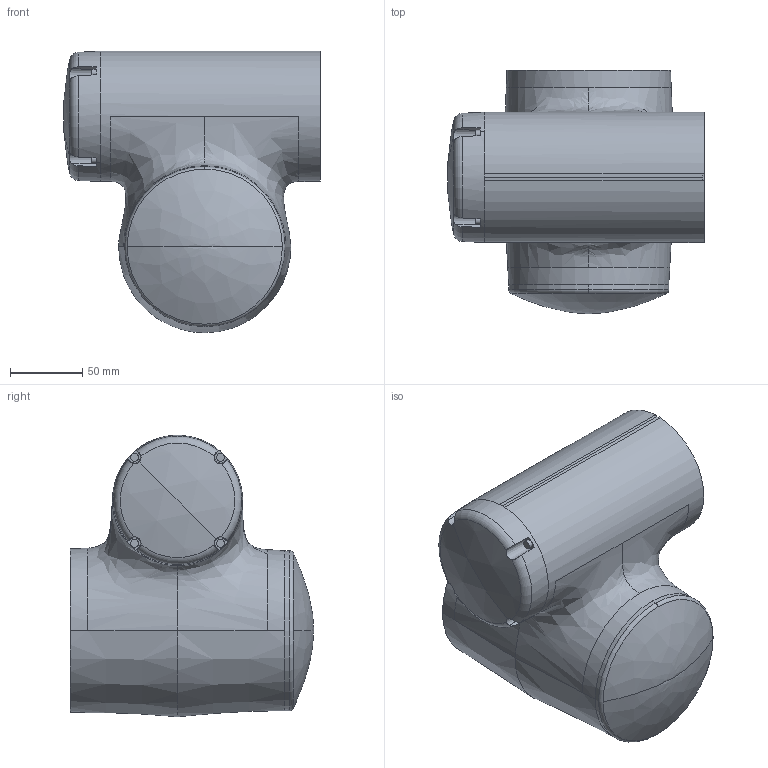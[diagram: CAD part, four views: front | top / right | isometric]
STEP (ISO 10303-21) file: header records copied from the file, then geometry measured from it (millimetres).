
FILE_DESCRIPTION (( 'STEP AP214' ), '1' );
FILE_NAME ('CRB1920_30kg-1350_OmniCore_rev00_Link5.step', '2026-03-06T03:43:24', ( '' ), ( '' ), 'SwSTEP 2.0', 'SolidWorks 2022', '' );
FILE_SCHEMA (( 'AUTOMOTIVE_DESIGN' ));
Length unit declared in the file: millimetre
Products named in the file (1): CRB1920_30kg-1350_OmniCore_rev00_Link5
Bounding box: 177.42 x 168 x 194.5 mm (x, y, z)
Volume: 2808303 mm3; surface area: 122758.6 mm2
Topology: 1 solids, 1 shells, 75 faces, 200 edges, 129 vertices
Faces by surface type: plane 34, cylinder 14, cone 13, bspline 6, torus 6, sphere 2
Entity records: 11994 total; most frequent: CARTESIAN_POINT 10173, ORIENTED_EDGE 396, DIRECTION 348, EDGE_CURVE 198, AXIS2_PLACEMENT_3D 140, VERTEX_POINT 129, EDGE_LOOP 79, FACE_OUTER_BOUND 75
